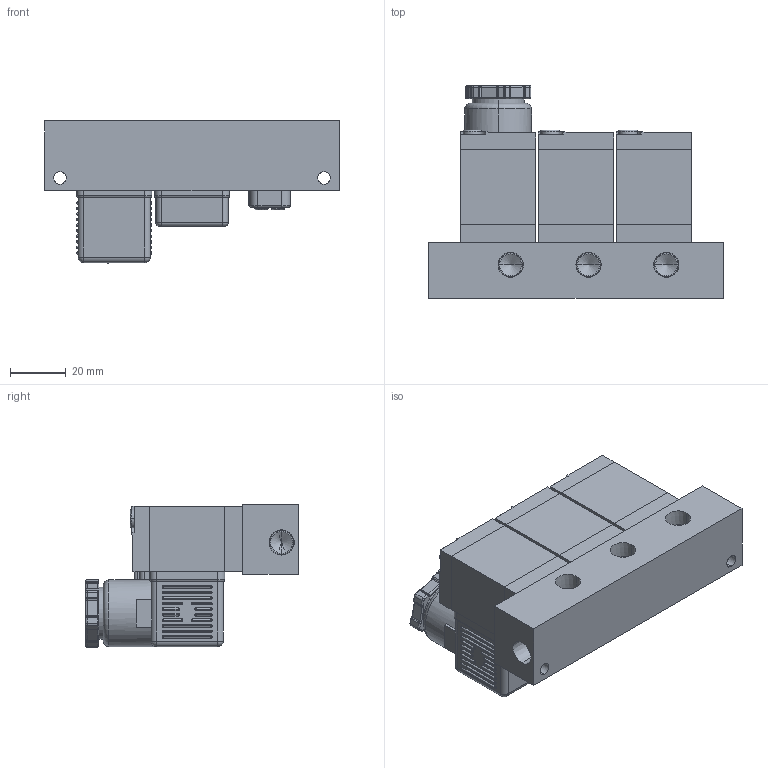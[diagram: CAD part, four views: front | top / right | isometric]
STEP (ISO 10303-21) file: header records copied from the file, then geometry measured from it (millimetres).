
FILE_DESCRIPTION (( 'STEP AP203' ), '1' );
FILE_NAME ('MF#-TI1-01.STEP', '2016-08-01T03:10:53', ( '' ), ( '' ), 'SwSTEP 2.0', 'SolidWorks 2014', '' );
FILE_SCHEMA (( 'CONFIG_CONTROL_DESIGN' ));
Length unit declared in the file: millimetre
Products named in the file (17): PCS2406-7; SS231-C; PC6-M4; MF#-TI1-01; SS231-1; PC6-M3; PCS2406-9; G2; TI-G; PCS2406-3; L2; PCS2406-7-L; TI-C; TI-L; PCS2406-8
Assembly tree (29 placements, depth 4):
  MF#-TI1-01
    (unnamed)
    TI-C
      SS231-1
      SS231-C
        PCS2406-7
        PCS2406-8
        PCS2406-9
        PC6-M3  x2
        PC6-M4
        SS231-C
    TI-G
      SS231-1
      G2
        PCS2406-7
        PCS2406-3
        PC6-M4
        PCS2406-8
        PCS2406-9
        PC6-M3  x2
    TI-L
      SS231-1
      L2
        PCS2406-8
        PCS2406-9
        PC6-M3  x2
        PCS2406-7-L
Bounding box: 106 x 76.5 x 51.14 mm (x, y, z)
Volume: 162516.7 mm3; surface area: 49541.7 mm2
Topology: 23 solids, 23 shells, 955 faces, 2321 edges, 1325 vertices
Faces by surface type: plane 328, cylinder 258, sphere 168, torus 106, cone 95
Entity records: 20626 total; most frequent: DIRECTION 3695, CARTESIAN_POINT 3145, ORIENTED_EDGE 2926, AXIS2_PLACEMENT_3D 1557, EDGE_CURVE 1463, VERTEX_POINT 875, CIRCLE 858, EDGE_LOOP 720
